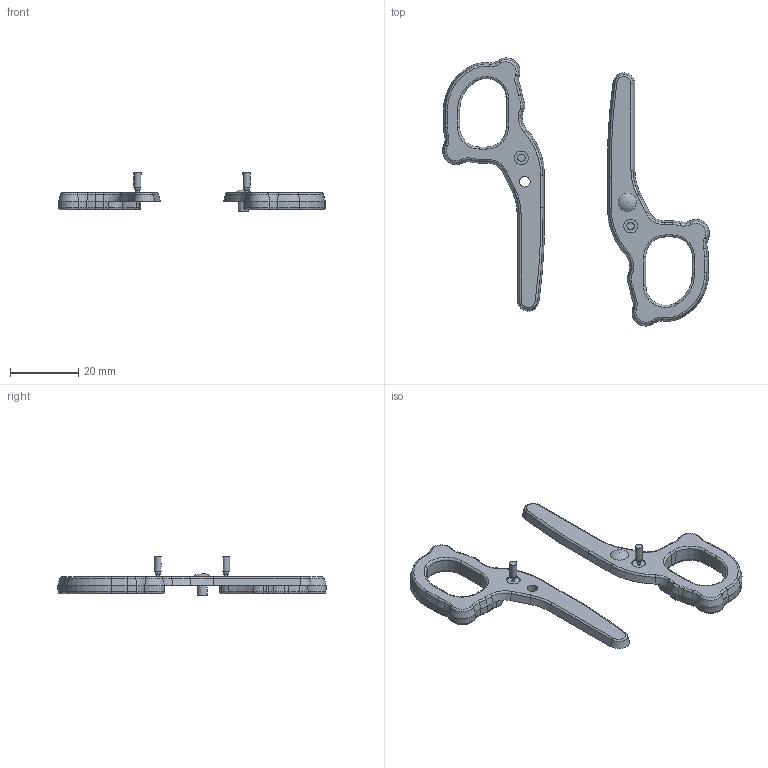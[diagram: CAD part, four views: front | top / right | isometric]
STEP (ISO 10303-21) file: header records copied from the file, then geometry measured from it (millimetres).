
FILE_DESCRIPTION(/* description */ (''),/* implementation_level */ '2;1');
FILE_NAME(/* name */ 'CP05.stp',/* time_stamp */ '2019-05-02T11:00:34+08:00',/* author */ (''),/* organization */ (''),/* preprocessor_version */ 'ST-DEVELOPER v16',/* originating_system */ 'SIEMENS PLM Software NX 10.0',/* authorisation */ '');
FILE_SCHEMA (('AUTOMOTIVE_DESIGN { 1 0 10303 214 3 1 1 1 }'));
Length unit declared in the file: millimetre
Products named in the file (1): CUT
Bounding box: 78.23 x 78.55 x 11.53 mm (x, y, z)
Volume: 5567.6 mm3; surface area: 4960.3 mm2
Topology: 2 solids, 2 shells, 266 faces, 594 edges, 341 vertices
Faces by surface type: torus 94, cone 92, plane 39, cylinder 38, sphere 3
Full cylindrical faces by diameter (mm): 1 x2, 4 x6
Entity records: 7435 total; most frequent: DIRECTION 1466, CARTESIAN_POINT 1365, ORIENTED_EDGE 1142, AXIS2_PLACEMENT_3D 646, EDGE_CURVE 571, CIRCLE 379, VERTEX_POINT 335, EDGE_LOOP 298
